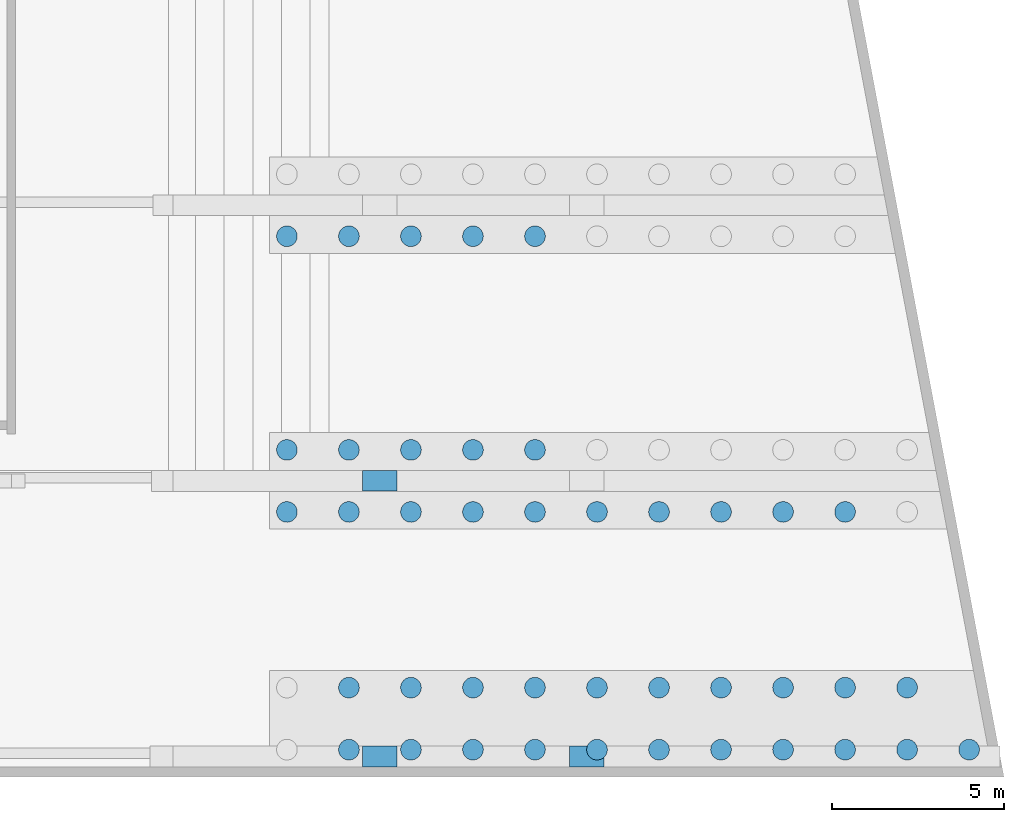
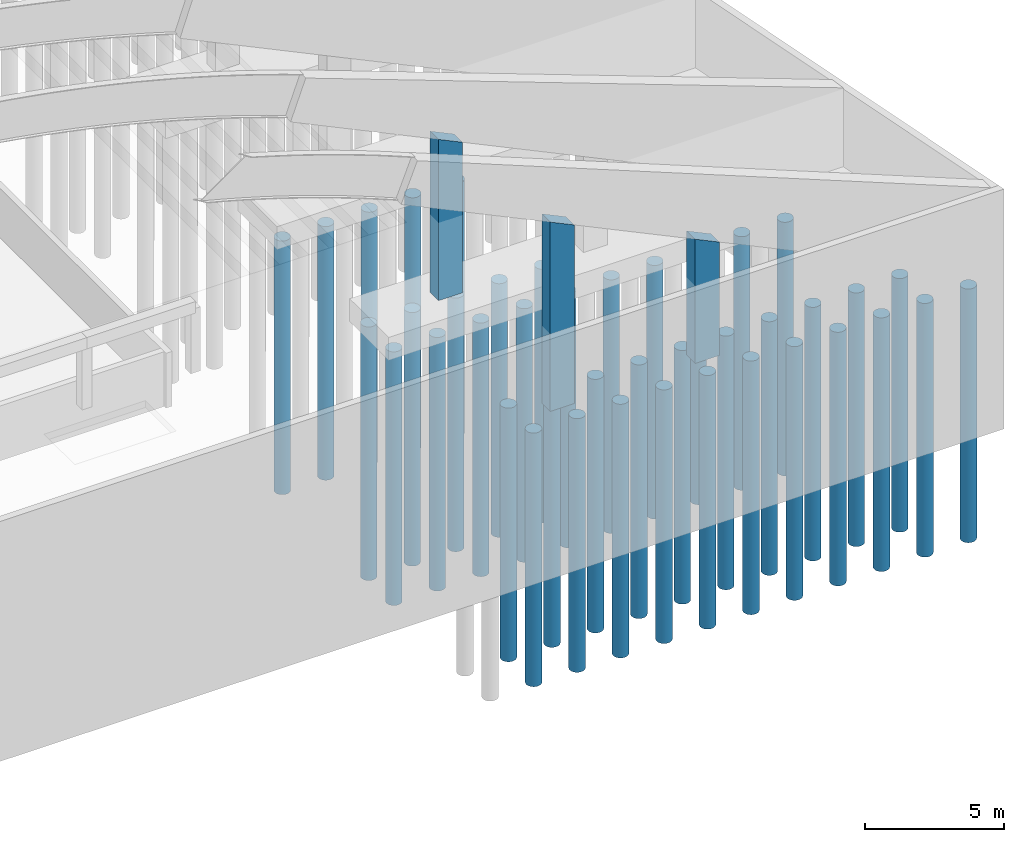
# One storey, part 2 of 10: 44 columns.
"""IFC2X3 building model written with IfcOpenShell, lengths in millimetres."""

from ifc_helpers import new_model, si_unit, derived_unit, direction, frame, frame_2d, origin, origin_2d_with_axis, place, context, subcontext, project, spatial, rectangle, circle, extrude, clip, halfspace, source, transform, mapped, material, type_object, type_shapes, element, save


model = new_model("IFC2X3")

# Units and contexts
model_context = context("Model", 3, precision=0.01, world=origin(), true_north=direction((6.12303176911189e-17, 1.0)))
body_context = subcontext(model_context, "Body", "Model", "MODEL_VIEW")
ifc_project = project(units=[si_unit("LENGTHUNIT", "METRE", prefix="MILLI"), si_unit("AREAUNIT", "SQUARE_METRE"), si_unit("VOLUMEUNIT", "CUBIC_METRE"), si_unit("PLANEANGLEUNIT", "RADIAN"), si_unit("MASSUNIT", "GRAM", prefix="KILO"), derived_unit("MASSDENSITYUNIT", [(si_unit("MASSUNIT", "GRAM", prefix="KILO"), 1), (si_unit("LENGTHUNIT", "METRE"), -3)]), si_unit("TIMEUNIT", "SECOND"), si_unit("FREQUENCYUNIT", "HERTZ"), si_unit("THERMODYNAMICTEMPERATUREUNIT", "DEGREE_CELSIUS"), derived_unit("THERMALTRANSMITTANCEUNIT", [(si_unit("MASSUNIT", "GRAM", prefix="KILO"), 1), (si_unit("THERMODYNAMICTEMPERATUREUNIT", "KELVIN"), -1), (si_unit("TIMEUNIT", "SECOND"), -3)]), derived_unit("VOLUMETRICFLOWRATEUNIT", [(si_unit("LENGTHUNIT", "METRE"), 3), (si_unit("TIMEUNIT", "SECOND"), -1)]), si_unit("ELECTRICCURRENTUNIT", "AMPERE"), si_unit("ELECTRICVOLTAGEUNIT", "VOLT"), si_unit("POWERUNIT", "WATT"), si_unit("FORCEUNIT", "NEWTON", prefix="KILO"), si_unit("ILLUMINANCEUNIT", "LUX"), si_unit("LUMINOUSFLUXUNIT", "LUMEN"), si_unit("LUMINOUSINTENSITYUNIT", "CANDELA"), derived_unit("USERDEFINED", [(si_unit("MASSUNIT", "GRAM", prefix="KILO"), -1), (si_unit("LENGTHUNIT", "METRE"), -2), (si_unit("TIMEUNIT", "SECOND"), 3), (si_unit("LUMINOUSFLUXUNIT", "LUMEN"), 1)]), derived_unit("LINEARVELOCITYUNIT", [(si_unit("LENGTHUNIT", "METRE"), 1), (si_unit("TIMEUNIT", "SECOND"), -1)]), si_unit("PRESSUREUNIT", "PASCAL"), derived_unit("USERDEFINED", [(si_unit("LENGTHUNIT", "METRE"), -2), (si_unit("MASSUNIT", "GRAM", prefix="KILO"), 1), (si_unit("TIMEUNIT", "SECOND"), -2)])], contexts=[model_context])

# Site, building, storey
site_placement = place(None, origin())
site = spatial("IfcSite", under=ifc_project, at=site_placement, Name="Default", CompositionType="ELEMENT")
building_placement = place(site_placement, origin())
building = spatial("IfcBuilding", under=site, at=building_placement, CompositionType="ELEMENT")
storey_placement = place(building_placement, origin())
storey = spatial("IfcBuildingStorey", under=building, at=storey_placement, Name="Default", CompositionType="ELEMENT", Elevation=0.0)

# Columns
ifc_material = material(Name="CONCRETE/28MPa 117")
column_type_1 = type_object("IfcColumnType", Name="PILOTE", PredefinedType="COLUMN")
shared_shape_1 = source(origin(), body_context, "Body", "SweptSolid", [
    extrude(circle(Radius=300.000000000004, at=origin_2d_with_axis()), frame((126608.86, 67002.3654658, -15300.0), z_axis=(0.0, 0.0, 1.0), x_axis=(-1.0, 0.0, 0.0)), (0.0, 0.0, 1.0), 11100.0),
])
type_shapes(column_type_1, [shared_shape_1])
column_1_placement = place(building_placement, origin())
element("IfcColumn", 1, at=column_1_placement, inside=storey, type_object=column_type_1, material=ifc_material, Name="PILOTE 306:PILOTE 306", ObjectType="PILOTE 306:PILOTE 306", context=body_context, shape_type="MappedRepresentation", body=[
    mapped(shared_shape_1, transform((0.0, 0.0, 0.0), scale=1.0)),
])
column_type_2 = type_object("IfcColumnType", Name="PILOTE", PredefinedType="COLUMN")
shared_shape_2 = source(origin(), body_context, "Body", "SweptSolid", [
    extrude(circle(Radius=300.000000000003, at=origin_2d_with_axis()), frame((114008.86, 81902.3654658, -15300.0), z_axis=(0.0, 0.0, 1.0), x_axis=(-1.0, 0.0, 0.0)), (0.0, 0.0, 1.0), 11100.0),
])
type_shapes(column_type_2, [shared_shape_2])
column_2_placement = place(building_placement, origin())
element("IfcColumn", 2, at=column_2_placement, inside=storey, type_object=column_type_2, material=ifc_material, Name="PILOTE 882:PILOTE 882", ObjectType="PILOTE 882:PILOTE 882", context=body_context, shape_type="MappedRepresentation", body=[
    mapped(shared_shape_2, transform((0.0, 0.0, 0.0), scale=1.0)),
])
column_type_3 = type_object("IfcColumnType", Name="PILOTE", PredefinedType="COLUMN")
shared_shape_3 = source(origin(), body_context, "Body", "SweptSolid", [
    extrude(circle(Radius=300.000000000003, at=origin_2d_with_axis()), frame((112208.86, 81902.3654658, -15300.0), z_axis=(0.0, 0.0, 1.0), x_axis=(-1.0, 0.0, 0.0)), (0.0, 0.0, 1.0), 11100.0),
])
type_shapes(column_type_3, [shared_shape_3])
column_3_placement = place(building_placement, origin())
element("IfcColumn", 3, at=column_3_placement, inside=storey, type_object=column_type_3, material=ifc_material, Name="PILOTE 898:PILOTE 898", ObjectType="PILOTE 898:PILOTE 898", context=body_context, shape_type="MappedRepresentation", body=[
    mapped(shared_shape_3, transform((0.0, 0.0, 0.0), scale=1.0)),
])
column_type_4 = type_object("IfcColumnType", Name="PILOTE", PredefinedType="COLUMN")
shared_shape_4 = source(origin(), body_context, "Body", "SweptSolid", [
    extrude(circle(Radius=300.000000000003, at=origin_2d_with_axis()), frame((110408.86, 81902.3654658, -15300.0), z_axis=(0.0, 0.0, 1.0), x_axis=(-1.0, 0.0, 0.0)), (0.0, 0.0, 1.0), 11100.0),
])
type_shapes(column_type_4, [shared_shape_4])
column_4_placement = place(building_placement, origin())
element("IfcColumn", 4, at=column_4_placement, inside=storey, type_object=column_type_4, material=ifc_material, Name="PILOTE 914:PILOTE 914", ObjectType="PILOTE 914:PILOTE 914", context=body_context, shape_type="MappedRepresentation", body=[
    mapped(shared_shape_4, transform((0.0, 0.0, 0.0), scale=1.0)),
])
column_type_5 = type_object("IfcColumnType", Name="PILOTE", PredefinedType="COLUMN")
shared_shape_5 = source(origin(), body_context, "Body", "SweptSolid", [
    extrude(circle(Radius=300.000000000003, at=origin_2d_with_axis()), frame((108608.86, 81902.3654658, -15300.0), z_axis=(0.0, 0.0, 1.0), x_axis=(-1.0, 0.0, 0.0)), (0.0, 0.0, 1.0), 11100.0),
])
type_shapes(column_type_5, [shared_shape_5])
column_5_placement = place(building_placement, origin())
element("IfcColumn", 5, at=column_5_placement, inside=storey, type_object=column_type_5, material=ifc_material, Name="PILOTE 940:PILOTE 940", ObjectType="PILOTE 940:PILOTE 940", context=body_context, shape_type="MappedRepresentation", body=[
    mapped(shared_shape_5, transform((0.0, 0.0, 0.0), scale=1.0)),
])
column_type_6 = type_object("IfcColumnType", Name="PILOTE", PredefinedType="COLUMN")
shared_shape_6 = source(origin(), body_context, "Body", "SweptSolid", [
    extrude(circle(Radius=300.000000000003, at=origin_2d_with_axis()), frame((106808.86, 81902.3654658, -15300.0), z_axis=(0.0, 0.0, 1.0), x_axis=(-1.0, 0.0, 0.0)), (0.0, 0.0, 1.0), 11100.0),
])
type_shapes(column_type_6, [shared_shape_6])
column_6_placement = place(building_placement, origin())
element("IfcColumn", 6, at=column_6_placement, inside=storey, type_object=column_type_6, material=ifc_material, Name="PILOTE 948:PILOTE 948", ObjectType="PILOTE 948:PILOTE 948", context=body_context, shape_type="MappedRepresentation", body=[
    mapped(shared_shape_6, transform((0.0, 0.0, 0.0), scale=1.0)),
])
column_type_7 = type_object("IfcColumnType", Name="PILOTE", PredefinedType="COLUMN")
shared_shape_7 = source(origin(), body_context, "Body", "SweptSolid", [
    extrude(circle(Radius=300.000000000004, at=origin_2d_with_axis()), frame((124808.86, 68802.3654658, -15300.0), z_axis=(0.0, 0.0, 1.0), x_axis=(-1.0, 0.0, 0.0)), (0.0, 0.0, 1.0), 11100.0),
])
type_shapes(column_type_7, [shared_shape_7])
column_7_placement = place(building_placement, origin())
element("IfcColumn", 7, at=column_7_placement, inside=storey, type_object=column_type_7, material=ifc_material, Name="PILOTE 958:PILOTE 958", ObjectType="PILOTE 958:PILOTE 958", context=body_context, shape_type="MappedRepresentation", body=[
    mapped(shared_shape_7, transform((0.0, 0.0, 0.0), scale=1.0)),
])
column_type_8 = type_object("IfcColumnType", Name="PILOTE", PredefinedType="COLUMN")
shared_shape_8 = source(origin(), body_context, "Body", "SweptSolid", [
    extrude(circle(Radius=300.000000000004, at=origin_2d_with_axis()), frame((124808.86, 67002.3654658, -15300.0), z_axis=(0.0, 0.0, 1.0), x_axis=(-1.0, 0.0, 0.0)), (0.0, 0.0, 1.0), 11100.0),
])
type_shapes(column_type_8, [shared_shape_8])
column_8_placement = place(building_placement, origin())
element("IfcColumn", 8, at=column_8_placement, inside=storey, type_object=column_type_8, material=ifc_material, Name="PILOTE 966:PILOTE 966", ObjectType="PILOTE 966:PILOTE 966", context=body_context, shape_type="MappedRepresentation", body=[
    mapped(shared_shape_8, transform((0.0, 0.0, 0.0), scale=1.0)),
])
column_type_9 = type_object("IfcColumnType", Name="PILOTE", PredefinedType="COLUMN")
shared_shape_9 = source(origin(), body_context, "Body", "SweptSolid", [
    extrude(circle(Radius=300.000000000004, at=origin_2d_with_axis()), frame((123008.86, 68802.3654658, -15300.0), z_axis=(0.0, 0.0, 1.0), x_axis=(-1.0, 0.0, 0.0)), (0.0, 0.0, 1.0), 11100.0),
])
type_shapes(column_type_9, [shared_shape_9])
column_9_placement = place(building_placement, origin())
element("IfcColumn", 9, at=column_9_placement, inside=storey, type_object=column_type_9, material=ifc_material, Name="PILOTE 974:PILOTE 974", ObjectType="PILOTE 974:PILOTE 974", context=body_context, shape_type="MappedRepresentation", body=[
    mapped(shared_shape_9, transform((0.0, 0.0, 0.0), scale=1.0)),
])
column_type_10 = type_object("IfcColumnType", Name="PILOTE", PredefinedType="COLUMN")
shared_shape_10 = source(origin(), body_context, "Body", "SweptSolid", [
    extrude(circle(Radius=300.000000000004, at=origin_2d_with_axis()), frame((123008.86, 67002.3654658, -15300.0), z_axis=(0.0, 0.0, 1.0), x_axis=(-1.0, 0.0, 0.0)), (0.0, 0.0, 1.0), 11100.0),
])
type_shapes(column_type_10, [shared_shape_10])
column_10_placement = place(building_placement, origin())
element("IfcColumn", 10, at=column_10_placement, inside=storey, type_object=column_type_10, material=ifc_material, Name="PILOTE 982:PILOTE 982", ObjectType="PILOTE 982:PILOTE 982", context=body_context, shape_type="MappedRepresentation", body=[
    mapped(shared_shape_10, transform((0.0, 0.0, 0.0), scale=1.0)),
])
column_type_11 = type_object("IfcColumnType", Name="PILOTE", PredefinedType="COLUMN")
shared_shape_11 = source(origin(), body_context, "Body", "SweptSolid", [
    extrude(circle(Radius=300.000000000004, at=origin_2d_with_axis()), frame((121208.86, 68802.3654658, -15300.0), z_axis=(0.0, 0.0, 1.0), x_axis=(-1.0, 0.0, 0.0)), (0.0, 0.0, 1.0), 11100.0),
])
type_shapes(column_type_11, [shared_shape_11])
column_11_placement = place(building_placement, origin())
element("IfcColumn", 11, at=column_11_placement, inside=storey, type_object=column_type_11, material=ifc_material, Name="PILOTE 992:PILOTE 992", ObjectType="PILOTE 992:PILOTE 992", context=body_context, shape_type="MappedRepresentation", body=[
    mapped(shared_shape_11, transform((0.0, 0.0, 0.0), scale=1.0)),
])
column_type_12 = type_object("IfcColumnType", Name="PILOTE", PredefinedType="COLUMN")
shared_shape_12 = source(origin(), body_context, "Body", "SweptSolid", [
    extrude(circle(Radius=300.000000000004, at=origin_2d_with_axis()), frame((121208.86, 67002.3654658, -15300.0), z_axis=(0.0, 0.0, 1.0), x_axis=(-1.0, 0.0, 0.0)), (0.0, 0.0, 1.0), 11100.0),
])
type_shapes(column_type_12, [shared_shape_12])
column_12_placement = place(building_placement, origin())
element("IfcColumn", 12, at=column_12_placement, inside=storey, type_object=column_type_12, material=ifc_material, Name="PILOTE 1002:PILOTE 1002", ObjectType="PILOTE 1002:PILOTE 1002", context=body_context, shape_type="MappedRepresentation", body=[
    mapped(shared_shape_12, transform((0.0, 0.0, 0.0), scale=1.0)),
])
column_type_13 = type_object("IfcColumnType", Name="PILOTE", PredefinedType="COLUMN")
shared_shape_13 = source(origin(), body_context, "Body", "SweptSolid", [
    extrude(circle(Radius=300.000000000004, at=origin_2d_with_axis()), frame((119408.86, 68802.3654658, -15300.0), z_axis=(0.0, 0.0, 1.0), x_axis=(-1.0, 0.0, 0.0)), (0.0, 0.0, 1.0), 11100.0),
])
type_shapes(column_type_13, [shared_shape_13])
column_13_placement = place(building_placement, origin())
element("IfcColumn", 13, at=column_13_placement, inside=storey, type_object=column_type_13, material=ifc_material, Name="PILOTE 1010:PILOTE 1010", ObjectType="PILOTE 1010:PILOTE 1010", context=body_context, shape_type="MappedRepresentation", body=[
    mapped(shared_shape_13, transform((0.0, 0.0, 0.0), scale=1.0)),
])
column_type_14 = type_object("IfcColumnType", Name="PILOTE", PredefinedType="COLUMN")
shared_shape_14 = source(origin(), body_context, "Body", "SweptSolid", [
    extrude(circle(Radius=300.000000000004, at=origin_2d_with_axis()), frame((119408.86, 67002.3654658, -15300.0), z_axis=(0.0, 0.0, 1.0), x_axis=(-1.0, 0.0, 0.0)), (0.0, 0.0, 1.0), 11100.0),
])
type_shapes(column_type_14, [shared_shape_14])
column_14_placement = place(building_placement, origin())
element("IfcColumn", 14, at=column_14_placement, inside=storey, type_object=column_type_14, material=ifc_material, Name="PILOTE 1018:PILOTE 1018", ObjectType="PILOTE 1018:PILOTE 1018", context=body_context, shape_type="MappedRepresentation", body=[
    mapped(shared_shape_14, transform((0.0, 0.0, 0.0), scale=1.0)),
])
column_type_15 = type_object("IfcColumnType", Name="PILOTE", PredefinedType="COLUMN")
shared_shape_15 = source(origin(), body_context, "Body", "SweptSolid", [
    extrude(circle(Radius=300.000000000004, at=origin_2d_with_axis()), frame((117608.86, 68802.3654658, -15300.0), z_axis=(0.0, 0.0, 1.0), x_axis=(-1.0, 0.0, 0.0)), (0.0, 0.0, 1.0), 11100.0),
])
type_shapes(column_type_15, [shared_shape_15])
column_15_placement = place(building_placement, origin())
element("IfcColumn", 15, at=column_15_placement, inside=storey, type_object=column_type_15, material=ifc_material, Name="PILOTE 1026:PILOTE 1026", ObjectType="PILOTE 1026:PILOTE 1026", context=body_context, shape_type="MappedRepresentation", body=[
    mapped(shared_shape_15, transform((0.0, 0.0, 0.0), scale=1.0)),
])
column_type_16 = type_object("IfcColumnType", Name="PILOTE", PredefinedType="COLUMN")
shared_shape_16 = source(origin(), body_context, "Body", "SweptSolid", [
    extrude(circle(Radius=300.000000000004, at=origin_2d_with_axis()), frame((117608.86, 67002.3654658, -15300.0), z_axis=(0.0, 0.0, 1.0), x_axis=(-1.0, 0.0, 0.0)), (0.0, 0.0, 1.0), 11100.0),
])
type_shapes(column_type_16, [shared_shape_16])
column_16_placement = place(building_placement, origin())
element("IfcColumn", 16, at=column_16_placement, inside=storey, type_object=column_type_16, material=ifc_material, Name="PILOTE 1034:PILOTE 1034", ObjectType="PILOTE 1034:PILOTE 1034", context=body_context, shape_type="MappedRepresentation", body=[
    mapped(shared_shape_16, transform((0.0, 0.0, 0.0), scale=1.0)),
])
column_type_17 = type_object("IfcColumnType", Name="PILOTE", PredefinedType="COLUMN")
shared_shape_17 = source(origin(), body_context, "Body", "SweptSolid", [
    extrude(circle(Radius=300.000000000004, at=origin_2d_with_axis()), frame((115808.86, 68802.3654658, -15300.0), z_axis=(0.0, 0.0, 1.0), x_axis=(-1.0, 0.0, 0.0)), (0.0, 0.0, 1.0), 11100.0),
])
type_shapes(column_type_17, [shared_shape_17])
column_17_placement = place(building_placement, origin())
element("IfcColumn", 17, at=column_17_placement, inside=storey, type_object=column_type_17, material=ifc_material, Name="PILOTE 1042:PILOTE 1042", ObjectType="PILOTE 1042:PILOTE 1042", context=body_context, shape_type="MappedRepresentation", body=[
    mapped(shared_shape_17, transform((0.0, 0.0, 0.0), scale=1.0)),
])
column_type_18 = type_object("IfcColumnType", Name="PILOTE", PredefinedType="COLUMN")
shared_shape_18 = source(origin(), body_context, "Body", "SweptSolid", [
    extrude(circle(Radius=300.000000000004, at=origin_2d_with_axis()), frame((115808.86, 67002.3654658, -15300.0), z_axis=(0.0, 0.0, 1.0), x_axis=(-1.0, 0.0, 0.0)), (0.0, 0.0, 1.0), 11100.0),
])
type_shapes(column_type_18, [shared_shape_18])
column_18_placement = place(building_placement, origin())
element("IfcColumn", 18, at=column_18_placement, inside=storey, type_object=column_type_18, material=ifc_material, Name="PILOTE 1050:PILOTE 1050", ObjectType="PILOTE 1050:PILOTE 1050", context=body_context, shape_type="MappedRepresentation", body=[
    mapped(shared_shape_18, transform((0.0, 0.0, 0.0), scale=1.0)),
])
column_type_19 = type_object("IfcColumnType", Name="PILOTE", PredefinedType="COLUMN")
shared_shape_19 = source(origin(), body_context, "Body", "SweptSolid", [
    extrude(circle(Radius=300.000000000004, at=origin_2d_with_axis()), frame((114008.86, 68802.3654658, -15300.0), z_axis=(0.0, 0.0, 1.0), x_axis=(-1.0, 0.0, 0.0)), (0.0, 0.0, 1.0), 11100.0),
])
type_shapes(column_type_19, [shared_shape_19])
column_19_placement = place(building_placement, origin())
element("IfcColumn", 19, at=column_19_placement, inside=storey, type_object=column_type_19, material=ifc_material, Name="PILOTE 1060:PILOTE 1060", ObjectType="PILOTE 1060:PILOTE 1060", context=body_context, shape_type="MappedRepresentation", body=[
    mapped(shared_shape_19, transform((0.0, 0.0, 0.0), scale=1.0)),
])
column_type_20 = type_object("IfcColumnType", Name="PILOTE", PredefinedType="COLUMN")
shared_shape_20 = source(origin(), body_context, "Body", "SweptSolid", [
    extrude(circle(Radius=300.000000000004, at=origin_2d_with_axis()), frame((114008.86, 67002.3654658, -15300.0), z_axis=(0.0, 0.0, 1.0), x_axis=(-1.0, 0.0, 0.0)), (0.0, 0.0, 1.0), 11100.0),
])
type_shapes(column_type_20, [shared_shape_20])
column_20_placement = place(building_placement, origin())
element("IfcColumn", 20, at=column_20_placement, inside=storey, type_object=column_type_20, material=ifc_material, Name="PILOTE 1070:PILOTE 1070", ObjectType="PILOTE 1070:PILOTE 1070", context=body_context, shape_type="MappedRepresentation", body=[
    mapped(shared_shape_20, transform((0.0, 0.0, 0.0), scale=1.0)),
])
column_type_21 = type_object("IfcColumnType", Name="PILOTE", PredefinedType="COLUMN")
shared_shape_21 = source(origin(), body_context, "Body", "SweptSolid", [
    extrude(circle(Radius=300.000000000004, at=origin_2d_with_axis()), frame((112208.86, 68802.3654658, -15300.0), z_axis=(0.0, 0.0, 1.0), x_axis=(-1.0, 0.0, 0.0)), (0.0, 0.0, 1.0), 11100.0),
])
type_shapes(column_type_21, [shared_shape_21])
column_21_placement = place(building_placement, origin())
element("IfcColumn", 21, at=column_21_placement, inside=storey, type_object=column_type_21, material=ifc_material, Name="PILOTE 1078:PILOTE 1078", ObjectType="PILOTE 1078:PILOTE 1078", context=body_context, shape_type="MappedRepresentation", body=[
    mapped(shared_shape_21, transform((0.0, 0.0, 0.0), scale=1.0)),
])
column_type_22 = type_object("IfcColumnType", Name="PILOTE", PredefinedType="COLUMN")
shared_shape_22 = source(origin(), body_context, "Body", "SweptSolid", [
    extrude(circle(Radius=300.000000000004, at=origin_2d_with_axis()), frame((112208.86, 67002.3654658, -15300.0), z_axis=(0.0, 0.0, 1.0), x_axis=(-1.0, 0.0, 0.0)), (0.0, 0.0, 1.0), 11100.0),
])
type_shapes(column_type_22, [shared_shape_22])
column_22_placement = place(building_placement, origin())
element("IfcColumn", 22, at=column_22_placement, inside=storey, type_object=column_type_22, material=ifc_material, Name="PILOTE 1086:PILOTE 1086", ObjectType="PILOTE 1086:PILOTE 1086", context=body_context, shape_type="MappedRepresentation", body=[
    mapped(shared_shape_22, transform((0.0, 0.0, 0.0), scale=1.0)),
])
column_type_23 = type_object("IfcColumnType", Name="PILOTE", PredefinedType="COLUMN")
shared_shape_23 = source(origin(), body_context, "Body", "SweptSolid", [
    extrude(circle(Radius=300.000000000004, at=origin_2d_with_axis()), frame((110408.86, 68802.3654658, -15300.0), z_axis=(0.0, 0.0, 1.0), x_axis=(-1.0, 0.0, 0.0)), (0.0, 0.0, 1.0), 11100.0),
])
type_shapes(column_type_23, [shared_shape_23])
column_23_placement = place(building_placement, origin())
element("IfcColumn", 23, at=column_23_placement, inside=storey, type_object=column_type_23, material=ifc_material, Name="PILOTE 1094:PILOTE 1094", ObjectType="PILOTE 1094:PILOTE 1094", context=body_context, shape_type="MappedRepresentation", body=[
    mapped(shared_shape_23, transform((0.0, 0.0, 0.0), scale=1.0)),
])
column_type_24 = type_object("IfcColumnType", Name="PILOTE", PredefinedType="COLUMN")
shared_shape_24 = source(origin(), body_context, "Body", "SweptSolid", [
    extrude(circle(Radius=300.000000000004, at=origin_2d_with_axis()), frame((110408.86, 67002.3654658, -15300.0), z_axis=(0.0, 0.0, 1.0), x_axis=(-1.0, 0.0, 0.0)), (0.0, 0.0, 1.0), 11100.0),
])
type_shapes(column_type_24, [shared_shape_24])
column_24_placement = place(building_placement, origin())
element("IfcColumn", 24, at=column_24_placement, inside=storey, type_object=column_type_24, material=ifc_material, Name="PILOTE 1102:PILOTE 1102", ObjectType="PILOTE 1102:PILOTE 1102", context=body_context, shape_type="MappedRepresentation", body=[
    mapped(shared_shape_24, transform((0.0, 0.0, 0.0), scale=1.0)),
])
column_type_25 = type_object("IfcColumnType", Name="PILOTE", PredefinedType="COLUMN")
shared_shape_25 = source(origin(), body_context, "Body", "SweptSolid", [
    extrude(circle(Radius=300.000000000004, at=origin_2d_with_axis()), frame((108608.86, 68802.3654658, -15300.0), z_axis=(0.0, 0.0, 1.0), x_axis=(-1.0, 0.0, 0.0)), (0.0, 0.0, 1.0), 11100.0),
])
type_shapes(column_type_25, [shared_shape_25])
column_25_placement = place(building_placement, origin())
element("IfcColumn", 25, at=column_25_placement, inside=storey, type_object=column_type_25, material=ifc_material, Name="PILOTE 1112:PILOTE 1112", ObjectType="PILOTE 1112:PILOTE 1112", context=body_context, shape_type="MappedRepresentation", body=[
    mapped(shared_shape_25, transform((0.0, 0.0, 0.0), scale=1.0)),
])
column_type_26 = type_object("IfcColumnType", Name="PILOTE", PredefinedType="COLUMN")
shared_shape_26 = source(origin(), body_context, "Body", "SweptSolid", [
    extrude(circle(Radius=300.000000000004, at=origin_2d_with_axis()), frame((108608.86, 67002.3654658, -15300.0), z_axis=(0.0, 0.0, 1.0), x_axis=(-1.0, 0.0, 0.0)), (0.0, 0.0, 1.0), 11100.0),
])
type_shapes(column_type_26, [shared_shape_26])
column_26_placement = place(building_placement, origin())
element("IfcColumn", 26, at=column_26_placement, inside=storey, type_object=column_type_26, material=ifc_material, Name="PILOTE 1130:PILOTE 1130", ObjectType="PILOTE 1130:PILOTE 1130", context=body_context, shape_type="MappedRepresentation", body=[
    mapped(shared_shape_26, transform((0.0, 0.0, 0.0), scale=1.0)),
])
column_type_27 = type_object("IfcColumnType", Name="PILOTE", PredefinedType="COLUMN")
shared_shape_27 = source(origin(), body_context, "Body", "SweptSolid", [
    extrude(circle(Radius=300.000000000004, at=origin_2d_with_axis()), frame((123008.86, 73902.3654658, -15300.0), z_axis=(0.0, 0.0, 1.0), x_axis=(-1.0, 0.0, 0.0)), (0.0, 0.0, 1.0), 11100.0),
])
type_shapes(column_type_27, [shared_shape_27])
column_27_placement = place(building_placement, origin())
element("IfcColumn", 27, at=column_27_placement, inside=storey, type_object=column_type_27, material=ifc_material, Name="PILOTE 1170:PILOTE 1170", ObjectType="PILOTE 1170:PILOTE 1170", context=body_context, shape_type="MappedRepresentation", body=[
    mapped(shared_shape_27, transform((0.0, 0.0, 0.0), scale=1.0)),
])
column_type_28 = type_object("IfcColumnType", Name="PILOTE", PredefinedType="COLUMN")
shared_shape_28 = source(origin(), body_context, "Body", "SweptSolid", [
    extrude(circle(Radius=300.000000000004, at=origin_2d_with_axis()), frame((121208.86, 73902.3654658, -15300.0), z_axis=(0.0, 0.0, 1.0), x_axis=(-1.0, 0.0, 0.0)), (0.0, 0.0, 1.0), 11100.0),
])
type_shapes(column_type_28, [shared_shape_28])
column_28_placement = place(building_placement, origin())
element("IfcColumn", 28, at=column_28_placement, inside=storey, type_object=column_type_28, material=ifc_material, Name="PILOTE 1186:PILOTE 1186", ObjectType="PILOTE 1186:PILOTE 1186", context=body_context, shape_type="MappedRepresentation", body=[
    mapped(shared_shape_28, transform((0.0, 0.0, 0.0), scale=1.0)),
])
column_type_29 = type_object("IfcColumnType", Name="PILOTE", PredefinedType="COLUMN")
shared_shape_29 = source(origin(), body_context, "Body", "SweptSolid", [
    extrude(circle(Radius=300.000000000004, at=origin_2d_with_axis()), frame((119408.86, 73902.3654658, -15300.0), z_axis=(0.0, 0.0, 1.0), x_axis=(-1.0, 0.0, 0.0)), (0.0, 0.0, 1.0), 11100.0),
])
type_shapes(column_type_29, [shared_shape_29])
column_29_placement = place(building_placement, origin())
element("IfcColumn", 29, at=column_29_placement, inside=storey, type_object=column_type_29, material=ifc_material, Name="PILOTE 1202:PILOTE 1202", ObjectType="PILOTE 1202:PILOTE 1202", context=body_context, shape_type="MappedRepresentation", body=[
    mapped(shared_shape_29, transform((0.0, 0.0, 0.0), scale=1.0)),
])
column_type_30 = type_object("IfcColumnType", Name="PILOTE", PredefinedType="COLUMN")
shared_shape_30 = source(origin(), body_context, "Body", "SweptSolid", [
    extrude(circle(Radius=300.000000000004, at=origin_2d_with_axis()), frame((117608.86, 73902.3654658, -15300.0), z_axis=(0.0, 0.0, 1.0), x_axis=(-1.0, 0.0, 0.0)), (0.0, 0.0, 1.0), 11100.0),
])
type_shapes(column_type_30, [shared_shape_30])
column_30_placement = place(building_placement, origin())
element("IfcColumn", 30, at=column_30_placement, inside=storey, type_object=column_type_30, material=ifc_material, Name="PILOTE 1218:PILOTE 1218", ObjectType="PILOTE 1218:PILOTE 1218", context=body_context, shape_type="MappedRepresentation", body=[
    mapped(shared_shape_30, transform((0.0, 0.0, 0.0), scale=1.0)),
])
column_type_31 = type_object("IfcColumnType", Name="PILOTE", PredefinedType="COLUMN")
shared_shape_31 = source(origin(), body_context, "Body", "SweptSolid", [
    extrude(circle(Radius=300.000000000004, at=origin_2d_with_axis()), frame((115808.86, 73902.3654658, -15300.0), z_axis=(0.0, 0.0, 1.0), x_axis=(-1.0, 0.0, 0.0)), (0.0, 0.0, 1.0), 11100.0),
])
type_shapes(column_type_31, [shared_shape_31])
column_31_placement = place(building_placement, origin())
element("IfcColumn", 31, at=column_31_placement, inside=storey, type_object=column_type_31, material=ifc_material, Name="PILOTE 1234:PILOTE 1234", ObjectType="PILOTE 1234:PILOTE 1234", context=body_context, shape_type="MappedRepresentation", body=[
    mapped(shared_shape_31, transform((0.0, 0.0, 0.0), scale=1.0)),
])
column_type_32 = type_object("IfcColumnType", Name="PILOTE", PredefinedType="COLUMN")
shared_shape_32 = source(origin(), body_context, "Body", "SweptSolid", [
    extrude(circle(Radius=300.000000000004, at=origin_2d_with_axis()), frame((114008.86, 75702.3654658, -15300.0), z_axis=(0.0, 0.0, 1.0), x_axis=(-1.0, 0.0, 0.0)), (0.0, 0.0, 1.0), 11100.0),
])
type_shapes(column_type_32, [shared_shape_32])
column_32_placement = place(building_placement, origin())
element("IfcColumn", 32, at=column_32_placement, inside=storey, type_object=column_type_32, material=ifc_material, Name="PILOTE 1242:PILOTE 1242", ObjectType="PILOTE 1242:PILOTE 1242", context=body_context, shape_type="MappedRepresentation", body=[
    mapped(shared_shape_32, transform((0.0, 0.0, 0.0), scale=1.0)),
])
column_type_33 = type_object("IfcColumnType", Name="PILOTE", PredefinedType="COLUMN")
shared_shape_33 = source(origin(), body_context, "Body", "SweptSolid", [
    extrude(circle(Radius=300.000000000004, at=origin_2d_with_axis()), frame((114008.86, 73902.3654658, -15300.0), z_axis=(0.0, 0.0, 1.0), x_axis=(-1.0, 0.0, 0.0)), (0.0, 0.0, 1.0), 11100.0),
])
type_shapes(column_type_33, [shared_shape_33])
column_33_placement = place(building_placement, origin())
element("IfcColumn", 33, at=column_33_placement, inside=storey, type_object=column_type_33, material=ifc_material, Name="PILOTE 1250:PILOTE 1250", ObjectType="PILOTE 1250:PILOTE 1250", context=body_context, shape_type="MappedRepresentation", body=[
    mapped(shared_shape_33, transform((0.0, 0.0, 0.0), scale=1.0)),
])
column_type_34 = type_object("IfcColumnType", Name="PILOTE", PredefinedType="COLUMN")
shared_shape_34 = source(origin(), body_context, "Body", "SweptSolid", [
    extrude(circle(Radius=300.000000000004, at=origin_2d_with_axis()), frame((112208.86, 75702.3654658, -15300.0), z_axis=(0.0, 0.0, 1.0), x_axis=(-1.0, 0.0, 0.0)), (0.0, 0.0, 1.0), 11100.0),
])
type_shapes(column_type_34, [shared_shape_34])
column_34_placement = place(building_placement, origin())
element("IfcColumn", 34, at=column_34_placement, inside=storey, type_object=column_type_34, material=ifc_material, Name="PILOTE 1258:PILOTE 1258", ObjectType="PILOTE 1258:PILOTE 1258", context=body_context, shape_type="MappedRepresentation", body=[
    mapped(shared_shape_34, transform((0.0, 0.0, 0.0), scale=1.0)),
])
column_type_35 = type_object("IfcColumnType", Name="PILOTE", PredefinedType="COLUMN")
shared_shape_35 = source(origin(), body_context, "Body", "SweptSolid", [
    extrude(circle(Radius=300.000000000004, at=origin_2d_with_axis()), frame((112208.86, 73902.3654658, -15300.0), z_axis=(0.0, 0.0, 1.0), x_axis=(-1.0, 0.0, 0.0)), (0.0, 0.0, 1.0), 11100.0),
])
type_shapes(column_type_35, [shared_shape_35])
column_35_placement = place(building_placement, origin())
element("IfcColumn", 35, at=column_35_placement, inside=storey, type_object=column_type_35, material=ifc_material, Name="PILOTE 1266:PILOTE 1266", ObjectType="PILOTE 1266:PILOTE 1266", context=body_context, shape_type="MappedRepresentation", body=[
    mapped(shared_shape_35, transform((0.0, 0.0, 0.0), scale=1.0)),
])
column_type_36 = type_object("IfcColumnType", Name="PILOTE", PredefinedType="COLUMN")
shared_shape_36 = source(origin(), body_context, "Body", "SweptSolid", [
    extrude(circle(Radius=300.000000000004, at=origin_2d_with_axis()), frame((110408.86, 75702.3654658, -15300.0), z_axis=(0.0, 0.0, 1.0), x_axis=(-1.0, 0.0, 0.0)), (0.0, 0.0, 1.0), 11100.0),
])
type_shapes(column_type_36, [shared_shape_36])
column_36_placement = place(building_placement, origin())
element("IfcColumn", 36, at=column_36_placement, inside=storey, type_object=column_type_36, material=ifc_material, Name="PILOTE 1274:PILOTE 1274", ObjectType="PILOTE 1274:PILOTE 1274", context=body_context, shape_type="MappedRepresentation", body=[
    mapped(shared_shape_36, transform((0.0, 0.0, 0.0), scale=1.0)),
])
column_type_37 = type_object("IfcColumnType", Name="PILOTE", PredefinedType="COLUMN")
shared_shape_37 = source(origin(), body_context, "Body", "SweptSolid", [
    extrude(circle(Radius=300.000000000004, at=origin_2d_with_axis()), frame((110408.86, 73902.3654658, -15300.0), z_axis=(0.0, 0.0, 1.0), x_axis=(-1.0, 0.0, 0.0)), (0.0, 0.0, 1.0), 11100.0),
])
type_shapes(column_type_37, [shared_shape_37])
column_37_placement = place(building_placement, origin())
element("IfcColumn", 37, at=column_37_placement, inside=storey, type_object=column_type_37, material=ifc_material, Name="PILOTE 1282:PILOTE 1282", ObjectType="PILOTE 1282:PILOTE 1282", context=body_context, shape_type="MappedRepresentation", body=[
    mapped(shared_shape_37, transform((0.0, 0.0, 0.0), scale=1.0)),
])
column_type_38 = type_object("IfcColumnType", Name="PILOTE", PredefinedType="COLUMN")
shared_shape_38 = source(origin(), body_context, "Body", "SweptSolid", [
    extrude(circle(Radius=300.000000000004, at=origin_2d_with_axis()), frame((108608.86, 75702.3654658, -15300.0), z_axis=(0.0, 0.0, 1.0), x_axis=(-1.0, 0.0, 0.0)), (0.0, 0.0, 1.0), 11100.0),
])
type_shapes(column_type_38, [shared_shape_38])
column_38_placement = place(building_placement, origin())
element("IfcColumn", 38, at=column_38_placement, inside=storey, type_object=column_type_38, material=ifc_material, Name="PILOTE 1290:PILOTE 1290", ObjectType="PILOTE 1290:PILOTE 1290", context=body_context, shape_type="MappedRepresentation", body=[
    mapped(shared_shape_38, transform((0.0, 0.0, 0.0), scale=1.0)),
])
column_type_39 = type_object("IfcColumnType", Name="PILOTE", PredefinedType="COLUMN")
shared_shape_39 = source(origin(), body_context, "Body", "SweptSolid", [
    extrude(circle(Radius=300.000000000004, at=origin_2d_with_axis()), frame((106808.86, 75702.3654658, -15300.0), z_axis=(0.0, 0.0, 1.0), x_axis=(-1.0, 0.0, 0.0)), (0.0, 0.0, 1.0), 11100.0),
])
type_shapes(column_type_39, [shared_shape_39])
column_39_placement = place(building_placement, origin())
element("IfcColumn", 39, at=column_39_placement, inside=storey, type_object=column_type_39, material=ifc_material, Name="PILOTE 1298:PILOTE 1298", ObjectType="PILOTE 1298:PILOTE 1298", context=body_context, shape_type="MappedRepresentation", body=[
    mapped(shared_shape_39, transform((0.0, 0.0, 0.0), scale=1.0)),
])
column_type_40 = type_object("IfcColumnType", Name="PILOTE", PredefinedType="COLUMN")
shared_shape_40 = source(origin(), body_context, "Body", "SweptSolid", [
    extrude(circle(Radius=300.000000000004, at=origin_2d_with_axis()), frame((108608.86, 73902.3654658, -15300.0), z_axis=(0.0, 0.0, 1.0), x_axis=(-1.0, 0.0, 0.0)), (0.0, 0.0, 1.0), 11100.0),
])
type_shapes(column_type_40, [shared_shape_40])
column_40_placement = place(building_placement, origin())
element("IfcColumn", 40, at=column_40_placement, inside=storey, type_object=column_type_40, material=ifc_material, Name="PILOTE 1306:PILOTE 1306", ObjectType="PILOTE 1306:PILOTE 1306", context=body_context, shape_type="MappedRepresentation", body=[
    mapped(shared_shape_40, transform((0.0, 0.0, 0.0), scale=1.0)),
])
column_type_41 = type_object("IfcColumnType", Name="PILOTE", PredefinedType="COLUMN")
shared_shape_41 = source(origin(), body_context, "Body", "SweptSolid", [
    extrude(circle(Radius=300.000000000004, at=origin_2d_with_axis()), frame((106808.86, 73902.3654658, -15300.0), z_axis=(0.0, 0.0, 1.0), x_axis=(-1.0, 0.0, 0.0)), (0.0, 0.0, 1.0), 11100.0),
])
type_shapes(column_type_41, [shared_shape_41])
column_41_placement = place(building_placement, origin())
element("IfcColumn", 41, at=column_41_placement, inside=storey, type_object=column_type_41, material=ifc_material, Name="PILOTE 1314:PILOTE 1314", ObjectType="PILOTE 1314:PILOTE 1314", context=body_context, shape_type="MappedRepresentation", body=[
    mapped(shared_shape_41, transform((0.0, 0.0, 0.0), scale=1.0)),
])
column_type_42 = type_object("IfcColumnType", Name="COLUMNA", PredefinedType="COLUMN")
shared_shape_42 = source(origin(), body_context, "Body", "Clipping", [
    clip(extrude(rectangle(XDim=600.000000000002, YDim=999.999999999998, at=frame_2d((0.0, -8.66862137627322e-12), x_axis=(1.0, 0.0))), frame((109508.8630785, 66803.9483369, -3299.99743629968), z_axis=(0.0, 0.0, 1.0), x_axis=(0.0, -1.0, 0.0)), (0.0, 0.0, 1.0), 8287.73519920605), halfspace(frame((101578.471831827, 75480.4819573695, 8516.87756929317), z_axis=(0.429027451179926, 0.0, 0.903291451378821), x_axis=(0.903291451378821, 0.0, -0.429027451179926)), False)),
])
type_shapes(column_type_42, [shared_shape_42])
column_42_placement = place(building_placement, origin())
element("IfcColumn", 42, at=column_42_placement, inside=storey, type_object=column_type_42, Name="COLUMNA 1958:COLUMNA 1958", ObjectType="COLUMNA 1958:COLUMNA 1958", context=body_context, shape_type="MappedRepresentation", body=[
    mapped(shared_shape_42, transform((0.0, 0.0, 0.0), scale=1.0)),
])
column_type_43 = type_object("IfcColumnType", Name="COLUMNA", PredefinedType="COLUMN")
shared_shape_43 = source(origin(), body_context, "Body", "Clipping", [
    clip(extrude(rectangle(XDim=599.999999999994, YDim=999.999999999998, at=frame_2d((-4.32009983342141e-12, -8.66862137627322e-12), x_axis=(1.0, 0.0))), frame((109508.8630785, 74803.9483369, -3300.00048833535), z_axis=(0.0, 0.0, 1.0), x_axis=(0.0, -1.0, 0.0)), (0.0, 0.0, 1.0), 7054.30517495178), halfspace(frame((102679.891339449, 82261.1418259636, 6760.31410876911), z_axis=(0.429027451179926, 0.0, 0.903291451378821), x_axis=(0.903291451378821, 0.0, -0.429027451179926)), False)),
])
type_shapes(column_type_43, [shared_shape_43])
column_43_placement = place(building_placement, origin())
element("IfcColumn", 43, at=column_43_placement, inside=storey, type_object=column_type_43, Name="COLUMNA 1994:COLUMNA 1994", ObjectType="COLUMNA 1994:COLUMNA 1994", context=body_context, shape_type="MappedRepresentation", body=[
    mapped(shared_shape_43, transform((0.0, 0.0, 0.0), scale=1.0)),
])
column_type_44 = type_object("IfcColumnType", Name="COLUMNA", PredefinedType="COLUMN")
shared_shape_44 = source(origin(), body_context, "Body", "Clipping", [
    clip(extrude(rectangle(XDim=600.000000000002, YDim=1000.00000000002, at=origin_2d_with_axis()), frame((115508.8630785, 66803.9483369, -3299.99943747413), z_axis=(0.0, 0.0, 1.0), x_axis=(0.0, -1.0, 0.0)), (0.0, 0.0, 1.0), 5437.98524195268), halfspace(frame((110114.705780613, 72672.6962994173, 4462.47369009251), z_axis=(0.429021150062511, 0.0, 0.903294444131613), x_axis=(0.903294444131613, 0.0, -0.429021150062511)), False)),
])
type_shapes(column_type_44, [shared_shape_44])
column_44_placement = place(building_placement, origin())
element("IfcColumn", 44, at=column_44_placement, inside=storey, type_object=column_type_44, Name="COLUMNA 2170:COLUMNA 2170", ObjectType="COLUMNA 2170:COLUMNA 2170", context=body_context, shape_type="MappedRepresentation", body=[
    mapped(shared_shape_44, transform((0.0, 0.0, 0.0), scale=1.0)),
])

save(model, "model.ifc")
